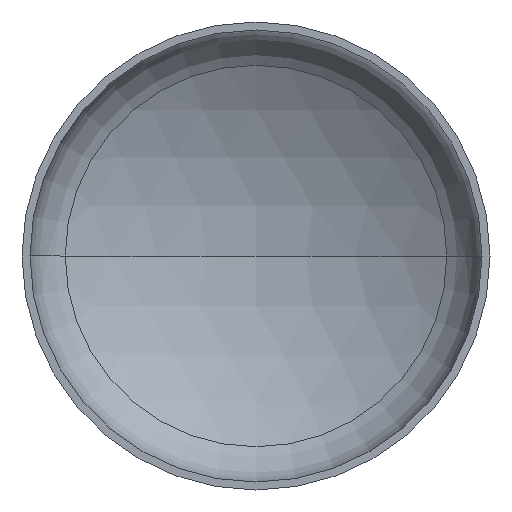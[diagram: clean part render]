
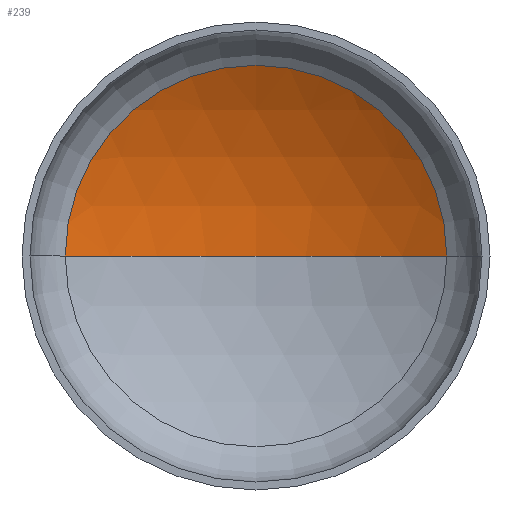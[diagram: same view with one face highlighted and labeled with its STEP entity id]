
A CAD part, front view. The second image highlights one B-rep face of the part: STEP entity #239.
In plain terms, the highlighted spherical face has radius 4400 mm.
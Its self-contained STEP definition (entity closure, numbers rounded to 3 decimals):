
#11 = CIRCLE ( 'NONE', #91, 2241.463 ) ;
#58 = VERTEX_POINT ( 'NONE', #291 ) ;
#70 = AXIS2_PLACEMENT_3D ( 'NONE', #227, #84, #231 ) ;
#73 = DIRECTION ( 'NONE',  ( -1., 0., 0. ) ) ;
#77 = DIRECTION ( 'NONE',  ( 0., 0., -1. ) ) ;
#82 = CARTESIAN_POINT ( 'NONE',  ( 0., -2959.135, 0. ) ) ;
#84 = DIRECTION ( 'NONE',  ( 0., 0., -1. ) ) ;
#86 = AXIS2_PLACEMENT_3D ( 'NONE', #215, #218, #237 ) ;
#88 = VERTEX_POINT ( 'NONE', #262 ) ;
#89 = AXIS2_PLACEMENT_3D ( 'NONE', #82, #77, #73 ) ;
#90 = DIRECTION ( 'NONE',  ( 1., 0., 0. ) ) ;
#91 = AXIS2_PLACEMENT_3D ( 'NONE', #95, #92, #90 ) ;
#92 = DIRECTION ( 'NONE',  ( 0., -1., 0. ) ) ;
#95 = CARTESIAN_POINT ( 'NONE',  ( 0., 827.136, 0. ) ) ;
#97 = ORIENTED_EDGE ( 'NONE', *, *, #232, .F. ) ;
#115 = ORIENTED_EDGE ( 'NONE', *, *, #230, .T. ) ;
#195 = CIRCLE ( 'NONE', #89, 4400. ) ;
#215 = CARTESIAN_POINT ( 'NONE',  ( 0., -2959.135, 0. ) ) ;
#218 = DIRECTION ( 'NONE',  ( 0., 0., 1. ) ) ;
#221 = EDGE_CURVE ( 'NONE', #58, #88, #11, .T. ) ;
#227 = CARTESIAN_POINT ( 'NONE',  ( 0., -2959.135, 0. ) ) ;
#230 = EDGE_CURVE ( 'NONE', #255, #58, #195, .T. ) ;
#231 = DIRECTION ( 'NONE',  ( -1., 0., 0. ) ) ;
#232 = EDGE_CURVE ( 'NONE', #255, #88, #285, .T. ) ;
#237 = DIRECTION ( 'NONE',  ( 1., 0., 0. ) ) ;
#239 = ADVANCED_FACE ( 'NONE', ( #411 ), #341, .F. ) ;
#255 = VERTEX_POINT ( 'NONE', #280 ) ;
#262 = CARTESIAN_POINT ( 'NONE',  ( -2241.463, 827.136, 0. ) ) ;
#280 = CARTESIAN_POINT ( 'NONE',  ( 0., 1440.865, 0. ) ) ;
#285 = CIRCLE ( 'NONE', #86, 4400. ) ;
#291 = CARTESIAN_POINT ( 'NONE',  ( 2241.463, 827.136, 0. ) ) ;
#295 = ORIENTED_EDGE ( 'NONE', *, *, #221, .T. ) ;
#341 = SPHERICAL_SURFACE ( 'NONE', #70, 4400. ) ;
#384 = EDGE_LOOP ( 'NONE', ( #97, #115, #295 ) ) ;
#411 = FACE_OUTER_BOUND ( 'NONE', #384, .T. ) ;
